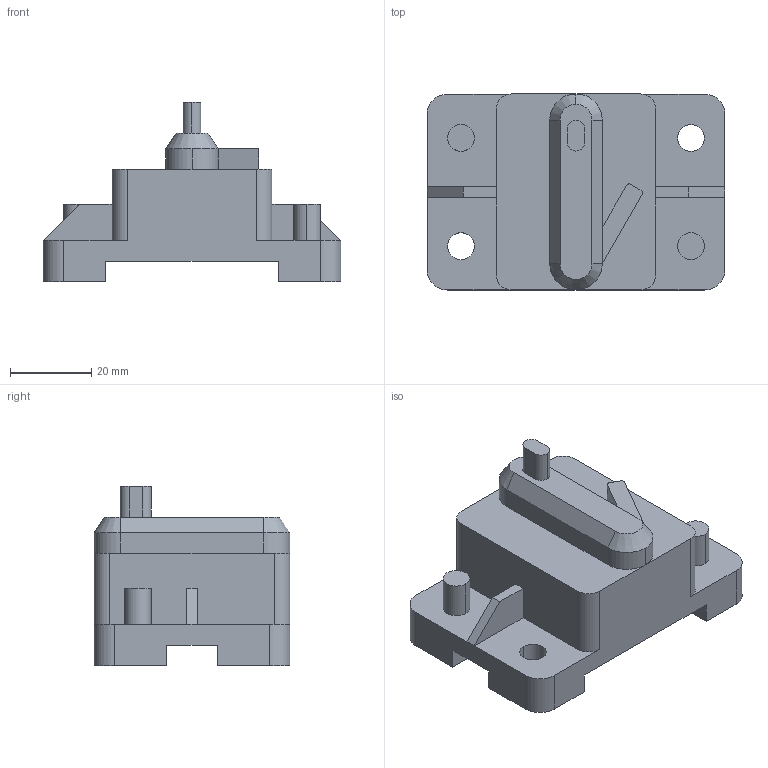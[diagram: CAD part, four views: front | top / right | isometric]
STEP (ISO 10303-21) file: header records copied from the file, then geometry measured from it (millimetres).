
FILE_DESCRIPTION (( 'STEP AP214' ), '1' );
FILE_NAME ('MainCircuitBreaker_120A-153120.step', '2025-12-23T15:52:49', ( '' ), ( '' ), 'SwSTEP 2.0', 'SolidWorks 2026', '' );
FILE_SCHEMA (( 'AUTOMOTIVE_DESIGN' ));
Length unit declared in the file: inch
Products named in the file (1): MainCircuitBreaker_120A-153120
Bounding box: 73.41 x 48.26 x 44.2 mm (x, y, z)
Volume: 62288.1 mm3; surface area: 14648.9 mm2
Topology: 1 solids, 1 shells, 74 faces, 194 edges, 125 vertices
Faces by surface type: plane 47, cylinder 24, cone 3
Entity records: 2302 total; most frequent: DIRECTION 397, CARTESIAN_POINT 394, ORIENTED_EDGE 388, EDGE_CURVE 194, VECTOR 141, LINE 141, AXIS2_PLACEMENT_3D 128, VERTEX_POINT 125
